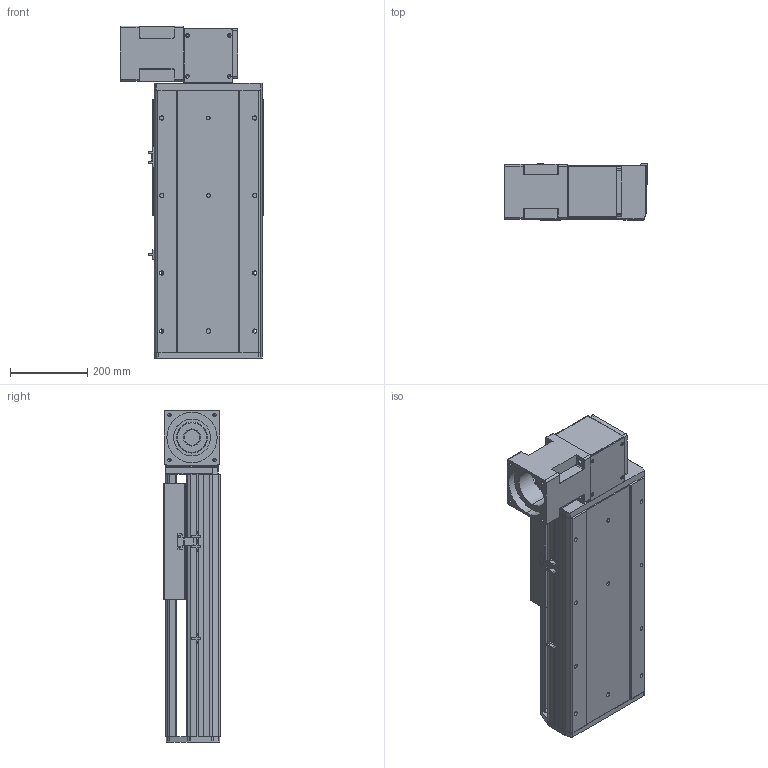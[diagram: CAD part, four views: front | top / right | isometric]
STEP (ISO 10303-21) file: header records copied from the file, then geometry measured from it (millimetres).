
FILE_DESCRIPTION (( 'STEP AP214' ), '1' );
FILE_NAME ('RTB28R-XX-550-BR-M100-XX-C4.STEP', '2025-12-22T01:06:01', ( '' ), ( '' ), 'SwSTEP 2.0', 'SolidWorks 2018', '' );
FILE_SCHEMA (( 'AUTOMOTIVE_DESIGN' ));
Length unit declared in the file: millimetre
Products named in the file (4): RTB28S-GY-004^RTB28R-XX-XX-BR-M100-XX-C4; RTB28S-GY-011^RTB28R-XX-XX-BR-M100-XX-C4; RTB28S-GY-008^RTB28R-XX-XX-BR-M100-XX-C4; RTB28R-XX-550-BR-M100-XX-C4
Assembly tree (3 placements, depth 2):
  RTB28R-XX-550-BR-M100-XX-C4
    RTB28S-GY-011^RTB28R-XX-XX-BR-M100-XX-C4
    RTB28S-GY-004^RTB28R-XX-XX-BR-M100-XX-C4
    RTB28S-GY-008^RTB28R-XX-XX-BR-M100-XX-C4
Bounding box: 370 x 145 x 857 mm (x, y, z)
Volume: 17804397 mm3; surface area: 1795300.7 mm2
Topology: 3 solids, 4 shells, 948 faces, 2490 edges, 1596 vertices
Faces by surface type: plane 448, cylinder 329, bspline 87, cone 80, torus 4
Entity records: 40258 total; most frequent: CARTESIAN_POINT 10645, ORIENTED_EDGE 4916, DIRECTION 4734, EDGE_CURVE 2458, AXIS2_PLACEMENT_3D 1601, VERTEX_POINT 1596, LINE 1532, VECTOR 1532
